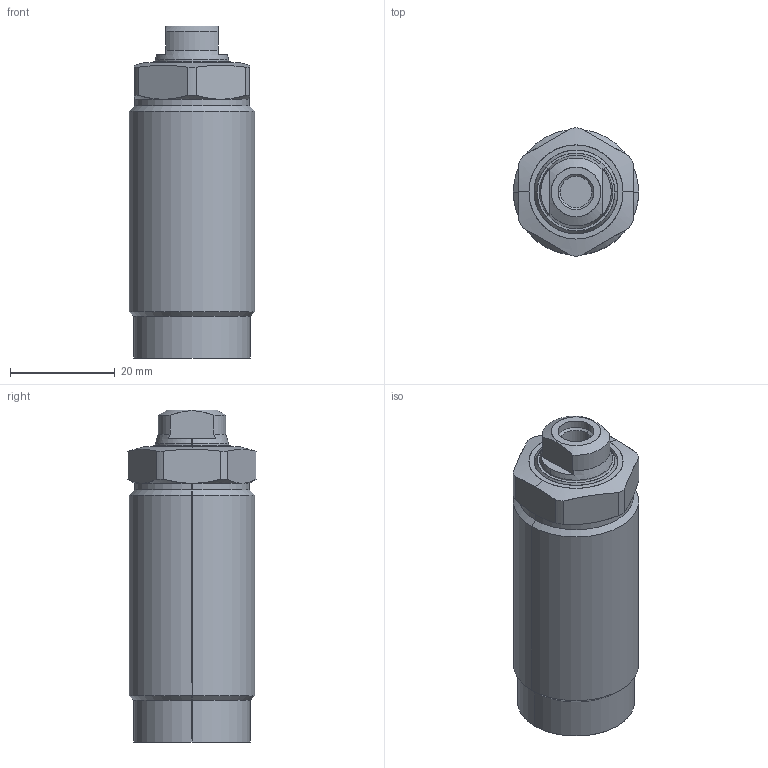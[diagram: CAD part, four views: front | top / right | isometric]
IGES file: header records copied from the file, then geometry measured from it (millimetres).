
Start section: SolidWorks IGES file using analytic representation for surfaces
Global section: file name: D:\abhilash\nijil\cylinder\Clasys1\dp converted\03\pt\03\0102-0303.IGS; native system: SolidWorks 2010; preprocessor: SolidWorks 2010; author: nidheesh; date: 130730.113531; units: millimetre
Bounding box: 24 x 24.49 x 63.5 mm (x, y, z)
Surface area: 6676.7 mm2 (no closed solid volume)
Topology: 0 solids, 0 shells, 74 faces, 932 edges, 932 vertices
Faces by surface type: revolution 50, bspline 24
